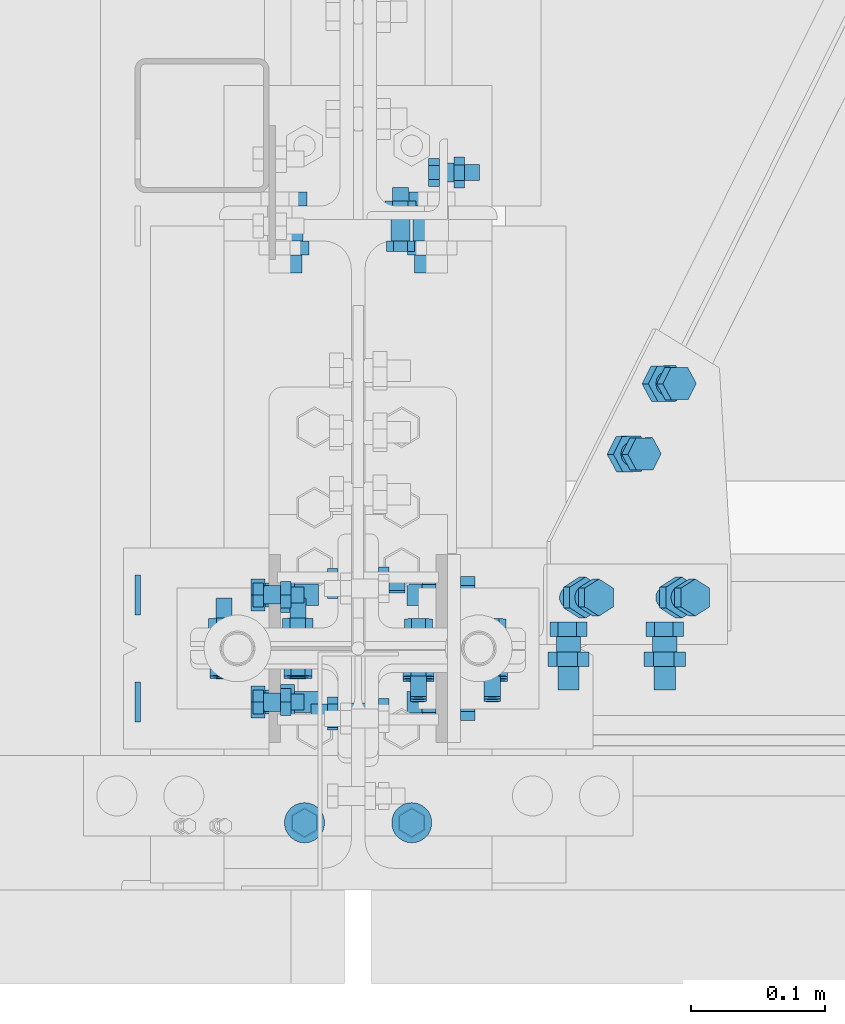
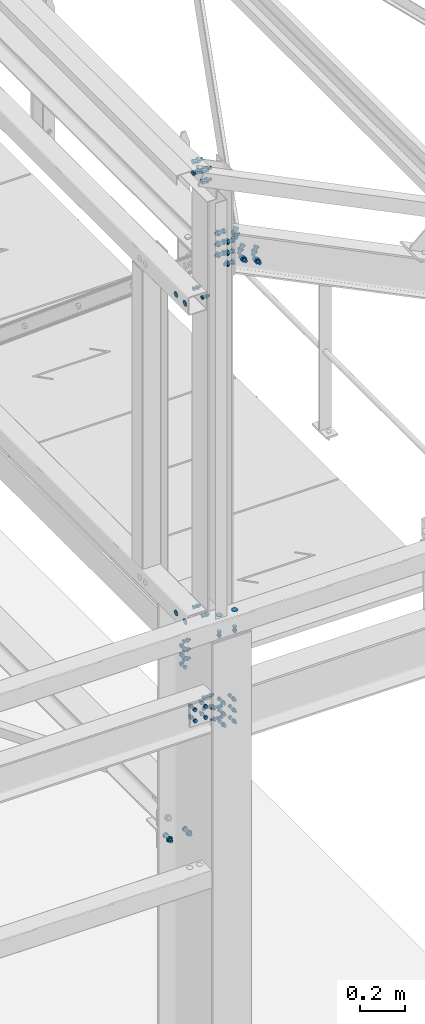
# One storey, part 185 of 362: 18 mechanical fasteners.
"""IFC2X3 building model written with IfcOpenShell, lengths in millimetres."""

from ifc_helpers import new_model, si_unit, frame, origin_with_axes, origin_2d_with_axis, place, context, subcontext, project, spatial, polyline, circle, outline, extrude, source, transform, mapped, material, type_object, element, save


model = new_model("IFC2X3")

# Units and contexts
model_context = context("Model", 3, precision=1e-05, world=origin_with_axes())
body_context = subcontext(model_context, "Body", "Model", "MODEL_VIEW")
ifc_project = project(units=[si_unit("LENGTHUNIT", "METRE", prefix="MILLI"), si_unit("AREAUNIT", "SQUARE_METRE"), si_unit("VOLUMEUNIT", "CUBIC_METRE"), si_unit("MASSUNIT", "GRAM", prefix="KILO"), si_unit("TIMEUNIT", "SECOND"), si_unit("PLANEANGLEUNIT", "RADIAN"), si_unit("SOLIDANGLEUNIT", "STERADIAN"), si_unit("THERMODYNAMICTEMPERATUREUNIT", "DEGREE_CELSIUS"), si_unit("LUMINOUSINTENSITYUNIT", "LUMEN")], contexts=[model_context])

# Site, building, storey
site_placement = place(None, origin_with_axes())
site = spatial("IfcSite", under=ifc_project, at=site_placement, Name="Undefined", CompositionType="ELEMENT")
building_placement = place(site_placement, origin_with_axes())
building = spatial("IfcBuilding", under=site, at=building_placement, Name="Undefined", CompositionType="ELEMENT")
storey_placement = place(building_placement, origin_with_axes())
storey = spatial("IfcBuildingStorey", under=building, at=storey_placement, Name="Undefined", CompositionType="ELEMENT", Elevation=0.0)

# Mechanical fasteners
ifc_material_1 = material(Name="6.8")
mechanical_fastener_type = type_object("IfcMechanicalFastenerType", Name="Bolt assembly")
shared_shape_1 = source(origin_with_axes(), body_context, "Body", "SweptSolid", [
    extrude(circle(Radius=15.0, at=origin_2d_with_axis()), frame((0.0, 0.0, 0.0), z_axis=(0.0, 1.0, 0.0), x_axis=(1.0, 0.0, 0.0)), (0.0, 0.0, 1.0), 4.1),
])
mechanical_fastener_1_placement = place(storey_placement, frame((34279.9971504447, -130.000007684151, 8550.0), z_axis=(-1.0, 0.0, 0.0), x_axis=(0.0, 1.0, 0.0)))
element("IfcMechanicalFastener", 1, at=mechanical_fastener_1_placement, inside=storey, type_object=mechanical_fastener_type, material=ifc_material_1, Name="Bolt assembly", NominalDiameter=30.0, NominalLength=4.0, context=body_context, shape_type="MappedRepresentation", body=[
    mapped(shared_shape_1, transform((0.0, 0.0, -40.0))),
    mapped(shared_shape_1, transform((0.0, 0.0, 40.0))),
])
mechanical_fastener_2_placement = place(storey_placement, frame((34113.4999999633, 2.27373675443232e-13, 10245.0), z_axis=(0.0, 1.0, 0.0), x_axis=(0.0, 0.0, 1.0)))
element("IfcMechanicalFastener", 2, at=mechanical_fastener_2_placement, inside=storey, type_object=mechanical_fastener_type, material=ifc_material_1, Name="Bolt assembly", NominalDiameter=30.0, NominalLength=4.0, context=body_context, shape_type="MappedRepresentation", body=[
    mapped(shared_shape_1, transform((0.0, 0.0, 40.0))),
    mapped(shared_shape_1, transform((0.0, 0.0, -40.0))),
])
ifc_material_2 = material(Name="#_SB-8.8-ZINGUE")
shared_shape_2 = source(origin_with_axes(), body_context, "Body", "SweptSolid", [
    extrude(circle(Radius=9.0, at=origin_2d_with_axis()), frame((0.0, 0.1, 0.0), z_axis=(0.0, 1.0, 0.0), x_axis=(1.0, 0.0, 0.0)), (0.0, 0.0, 1.0), 6.0),
    extrude(circle(Radius=9.0, at=origin_2d_with_axis()), frame((0.0, 5.90002706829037, 0.0), z_axis=(0.0, 1.0, 0.0), x_axis=(1.0, 0.0, 0.0)), (0.0, 0.0, 1.0), 6.1),
    extrude(outline(polyline([(13.85640646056, 0.0), (6.92820323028, 12.0000000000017), (-6.92820323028, 12.0000000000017), (-13.85640646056, 0.0), (-6.92820323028, -12.0000000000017), (6.92820323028, -12.0000000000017), (13.85640646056, 0.0)])), frame((0.0, -10.5600019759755, 0.0), z_axis=(0.0, 1.0, 0.0), x_axis=(1.0, 0.0, 0.0)), (0.0, 0.0, 1.0), 10.56),
    extrude(circle(Radius=8.0, at=origin_2d_with_axis()), frame((0.0, 0.0, 0.0), z_axis=(0.0, 1.0, 0.0), x_axis=(1.0, 0.0, 0.0)), (0.0, 0.0, 1.0), 40.0),
    extrude(outline(polyline([(15.3344231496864, 0.0), (7.6672115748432, 13.2800000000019), (-7.6672115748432, 13.2800000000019), (-15.3344231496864, 0.0), (-7.6672115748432, -13.2800000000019), (7.6672115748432, -13.2800000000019), (15.3344231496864, 0.0)])), frame((0.0, 12.0000270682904, 0.0), z_axis=(0.0, 1.0, 0.0), x_axis=(1.0, 0.0, 0.0)), (0.0, 0.0, 1.0), 10.56),
])
mechanical_fastener_3_placement = place(storey_placement, frame((34490.8929722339, 38.0002246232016, 10375.2945229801), z_axis=(0.897398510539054, 0.0, -0.44122093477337), x_axis=(0.0, -1.0, 0.0)))
element("IfcMechanicalFastener", 3, at=mechanical_fastener_3_placement, inside=storey, type_object=mechanical_fastener_type, material=ifc_material_2, Name="Bolt assembly", NominalDiameter=16.0, NominalLength=40.0, context=body_context, shape_type="MappedRepresentation", body=[
    mapped(shared_shape_2, transform((0.0, 0.0, -40.0))),
    mapped(shared_shape_2, transform((0.0, 0.0, 40.0))),
])
ifc_material_3 = material(Name="8.8-SB-ZINGUE")
shared_shape_3 = source(origin_with_axes(), body_context, "Body", "SweptSolid", [
    extrude(circle(Radius=7.0, at=origin_2d_with_axis()), frame((0.0, -0.100011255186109, 0.0), z_axis=(0.0, 1.0, 0.0), x_axis=(1.0, 0.0, 0.0)), (0.0, 0.0, 1.0), 5.1),
    extrude(circle(Radius=7.0, at=origin_2d_with_axis()), frame((0.0, -5.8999542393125, 0.0), z_axis=(0.0, 1.0, 0.0), x_axis=(1.0, 0.0, 0.0)), (0.0, 0.0, 1.0), 6.0),
    extrude(outline(polyline([(10.39230484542, 0.0), (5.19615242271, 9.00000000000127), (-5.19615242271, 9.00000000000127), (-10.39230484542, 0.0), (-5.19615242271, -9.00000000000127), (5.19615242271, -9.00000000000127), (10.39230484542, 0.0)])), frame((0.0, -13.9199542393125, 0.0), z_axis=(0.0, 1.0, 0.0), x_axis=(1.0, 0.0, 0.0)), (0.0, 0.0, 1.0), 7.92),
    extrude(circle(Radius=6.0, at=origin_2d_with_axis()), frame((0.0, -5.9999542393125, 0.0), z_axis=(0.0, 1.0, 0.0), x_axis=(1.0, 0.0, 0.0)), (0.0, 0.0, 1.0), 30.0),
    extrude(outline(polyline([(11.5008173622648, 0.0), (5.7504086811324, 9.96000000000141), (-5.7504086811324, 9.96000000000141), (-11.5008173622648, 0.0), (-5.7504086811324, -9.96000000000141), (5.7504086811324, -9.96000000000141), (11.5008173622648, 0.0)])), frame((0.0, 5.0, 0.0), z_axis=(0.0, 1.0, 0.0), x_axis=(1.0, 0.0, 0.0)), (0.0, 0.0, 1.0), 7.92),
])
mechanical_fastener_4_placement = place(storey_placement, frame((34346.5000547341, 354.999999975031, 8025.00000000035), z_axis=(0.0, 0.0, 1.0), x_axis=(0.0, -1.0, 0.0)))
element("IfcMechanicalFastener", 4, at=mechanical_fastener_4_placement, inside=storey, type_object=mechanical_fastener_type, material=ifc_material_3, Name="Bolt assembly", NominalDiameter=12.0, NominalLength=30.0, context=body_context, shape_type="MappedRepresentation", body=[
    mapped(shared_shape_3, transform((0.0, 0.0, -50.0))),
    mapped(shared_shape_3, transform((0.0, 0.0, 0.0))),
    mapped(shared_shape_3, transform((0.0, 0.0, 50.0))),
])
shared_shape_4 = source(origin_with_axes(), body_context, "Body", "SweptSolid", [
    extrude(circle(Radius=7.0, at=origin_2d_with_axis()), frame((0.0, -15.9000004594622, 0.0), z_axis=(0.0, 1.0, 0.0), x_axis=(1.0, 0.0, 0.0)), (0.0, 0.0, 1.0), 16.0),
    extrude(circle(Radius=7.0, at=origin_2d_with_axis()), frame((0.0, -0.100011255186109, 0.0), z_axis=(0.0, 1.0, 0.0), x_axis=(1.0, 0.0, 0.0)), (0.0, 0.0, 1.0), 6.1),
    extrude(outline(polyline([(10.39230484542, 0.0), (5.19615242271, 9.00000000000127), (-5.19615242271, 9.00000000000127), (-10.39230484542, 0.0), (-5.19615242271, -9.00000000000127), (5.19615242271, -9.00000000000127), (10.39230484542, 0.0)])), frame((0.0, -23.9200004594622, 0.0), z_axis=(0.0, 1.0, 0.0), x_axis=(1.0, 0.0, 0.0)), (0.0, 0.0, 1.0), 7.92),
    extrude(circle(Radius=6.0, at=origin_2d_with_axis()), frame((0.0, -16.0000004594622, 0.0), z_axis=(0.0, 1.0, 0.0), x_axis=(1.0, 0.0, 0.0)), (0.0, 0.0, 1.0), 40.0),
    extrude(outline(polyline([(11.5008173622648, 0.0), (5.7504086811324, 9.96000000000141), (-5.7504086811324, 9.96000000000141), (-11.5008173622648, 0.0), (-5.7504086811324, -9.96000000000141), (5.7504086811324, -9.96000000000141), (11.5008173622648, 0.0)])), frame((0.0, 6.0, 0.0), z_axis=(0.0, 1.0, 0.0), x_axis=(1.0, 0.0, 0.0)), (0.0, 0.0, 1.0), 7.92),
])
mechanical_fastener_5_placement = place(storey_placement, frame((34311.5000548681, 319.999999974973, 8025.00000000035), z_axis=(0.0, 0.0, 1.0), x_axis=(1.0, 0.0, 0.0)))
element("IfcMechanicalFastener", 5, at=mechanical_fastener_5_placement, inside=storey, type_object=mechanical_fastener_type, material=ifc_material_3, Name="Bolt assembly", NominalDiameter=12.0, NominalLength=40.0, context=body_context, shape_type="MappedRepresentation", body=[
    mapped(shared_shape_4, transform((0.0, 0.0, -50.0))),
    mapped(shared_shape_4, transform((0.0, 0.0, 0.0))),
    mapped(shared_shape_4, transform((0.0, 0.0, 50.0))),
])
shared_shape_5 = source(origin_with_axes(), body_context, "Body", "SweptSolid", [
    extrude(circle(Radius=7.0, at=origin_2d_with_axis()), frame((0.0, -3.89999843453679, 0.0), z_axis=(0.0, 1.0, 0.0), x_axis=(1.0, 0.0, 0.0)), (0.0, 0.0, 1.0), 4.0),
    extrude(circle(Radius=7.0, at=origin_2d_with_axis()), frame((0.0, -0.100011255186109, 0.0), z_axis=(0.0, 1.0, 0.0), x_axis=(1.0, 0.0, 0.0)), (0.0, 0.0, 1.0), 10.1),
    extrude(outline(polyline([(10.39230484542, 0.0), (5.19615242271, 9.00000000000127), (-5.19615242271, 9.00000000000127), (-10.39230484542, 0.0), (-5.19615242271, -9.00000000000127), (5.19615242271, -9.00000000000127), (10.39230484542, 0.0)])), frame((0.0, -11.9199984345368, 0.0), z_axis=(0.0, 1.0, 0.0), x_axis=(1.0, 0.0, 0.0)), (0.0, 0.0, 1.0), 7.92),
    extrude(circle(Radius=6.0, at=origin_2d_with_axis()), frame((0.0, -3.99999923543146, 0.0), z_axis=(0.0, 1.0, 0.0), x_axis=(1.0, 0.0, 0.0)), (0.0, 0.0, 1.0), 30.0),
    extrude(outline(polyline([(11.5008173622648, 0.0), (5.7504086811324, 9.96000000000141), (-5.7504086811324, 9.96000000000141), (-11.5008173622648, 0.0), (-5.7504086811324, -9.96000000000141), (5.7504086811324, -9.96000000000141), (11.5008173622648, 0.0)])), frame((0.0, 10.0000000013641, 0.0), z_axis=(0.0, 1.0, 0.0), x_axis=(1.0, 0.0, 0.0)), (0.0, 0.0, 1.0), 7.92),
])
mechanical_fastener_6_placement = place(storey_placement, frame((34279.9971504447, -130.0, 8450.0), z_axis=(-1.0, 0.0, 0.0), x_axis=(0.0, 1.0, 0.0)))
element("IfcMechanicalFastener", 6, at=mechanical_fastener_6_placement, inside=storey, type_object=mechanical_fastener_type, material=ifc_material_3, Name="Bolt assembly", NominalDiameter=12.0, NominalLength=30.0, context=body_context, shape_type="MappedRepresentation", body=[
    mapped(shared_shape_5, transform((0.0, 0.0, -40.0))),
    mapped(shared_shape_5, transform((0.0, 0.0, 40.0))),
])
shared_shape_6 = source(origin_with_axes(), body_context, "Body", "SweptSolid", [
    extrude(circle(Radius=9.0, at=origin_2d_with_axis()), frame((0.0, -4.89994333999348, 0.0), z_axis=(0.0, 1.0, 0.0), x_axis=(1.0, 0.0, 0.0)), (0.0, 0.0, 1.0), 5.0),
    extrude(circle(Radius=9.0, at=origin_2d_with_axis()), frame((0.0, -0.100011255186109, 0.0), z_axis=(0.0, 1.0, 0.0), x_axis=(1.0, 0.0, 0.0)), (0.0, 0.0, 1.0), 6.1),
    extrude(outline(polyline([(13.85640646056, 0.0), (6.92820323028, 12.0000000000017), (-6.92820323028, 12.0000000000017), (-13.85640646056, 0.0), (-6.92820323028, -12.0000000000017), (6.92820323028, -12.0000000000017), (13.85640646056, 0.0)])), frame((0.0, -15.5599419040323, 0.0), z_axis=(0.0, 1.0, 0.0), x_axis=(1.0, 0.0, 0.0)), (0.0, 0.0, 1.0), 10.56),
    extrude(circle(Radius=8.0, at=origin_2d_with_axis()), frame((0.0, -4.99994333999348, 0.0), z_axis=(0.0, 1.0, 0.0), x_axis=(1.0, 0.0, 0.0)), (0.0, 0.0, 1.0), 30.0),
    extrude(outline(polyline([(15.3344231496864, 0.0), (7.6672115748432, 13.2800000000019), (-7.6672115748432, 13.2800000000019), (-15.3344231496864, 0.0), (-7.6672115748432, -13.2800000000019), (7.6672115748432, -13.2800000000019), (15.3344231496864, 0.0)])), frame((0.0, 6.0, 0.0), z_axis=(0.0, 1.0, 0.0), x_axis=(1.0, 0.0, 0.0)), (0.0, 0.0, 1.0), 10.56),
])
mechanical_fastener_7_placement = place(storey_placement, frame((34486.7876729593, 145.089536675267, 10377.3129587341), z_axis=(-0.78486955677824, 0.484835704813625, 0.385893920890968), x_axis=(0.435090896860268, 0.874605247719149, -0.213919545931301)))
element("IfcMechanicalFastener", 7, at=mechanical_fastener_7_placement, inside=storey, type_object=mechanical_fastener_type, material=ifc_material_2, Name="Bolt assembly", NominalDiameter=16.0, NominalLength=30.0, context=body_context, shape_type="MappedRepresentation", body=[
    mapped(shared_shape_6, transform((0.0, 0.0, 0.0))),
    mapped(shared_shape_6, transform((60.0, 0.0, 0.0))),
])
shared_shape_7 = source(origin_with_axes(), body_context, "Body", "SweptSolid", [
    extrude(circle(Radius=9.0, at=origin_2d_with_axis()), frame((0.0, -2.89967612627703, 0.0), z_axis=(0.0, 1.0, 0.0), x_axis=(1.0, 0.0, 0.0)), (0.0, 0.0, 1.0), 5.7),
    extrude(circle(Radius=9.0, at=origin_2d_with_axis()), frame((0.0, -8.89990143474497, 0.0), z_axis=(0.0, 1.0, 0.0), x_axis=(1.0, 0.0, 0.0)), (0.0, 0.0, 1.0), 6.0),
    extrude(outline(polyline([(13.85640646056, 0.0), (6.92820323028, 12.0000000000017), (-6.92820323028, 12.0000000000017), (-13.85640646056, 0.0), (-6.92820323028, -12.0000000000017), (6.92820323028, -12.0000000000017), (13.85640646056, 0.0)])), frame((0.0, -19.559901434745, 0.0), z_axis=(0.0, 1.0, 0.0), x_axis=(1.0, 0.0, 0.0)), (0.0, 0.0, 1.0), 10.56),
    extrude(circle(Radius=8.0, at=origin_2d_with_axis()), frame((0.0, -8.99990143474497, 0.0), z_axis=(0.0, 1.0, 0.0), x_axis=(1.0, 0.0, 0.0)), (0.0, 0.0, 1.0), 40.0),
    extrude(outline(polyline([(15.3344231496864, 0.0), (7.6672115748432, 13.2800000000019), (-7.6672115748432, 13.2800000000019), (-15.3344231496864, 0.0), (-7.6672115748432, -13.2800000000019), (7.6672115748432, -13.2800000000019), (15.3344231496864, 0.0)])), frame((0.0, 2.80032377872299, 0.0), z_axis=(0.0, 1.0, 0.0), x_axis=(1.0, 0.0, 0.0)), (0.0, 0.0, 1.0), 10.56),
])
mechanical_fastener_8_placement = place(storey_placement, frame((34472.8028958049, 0.000323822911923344, 10338.5011560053), z_axis=(0.897398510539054, 0.0, -0.44122093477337), x_axis=(0.44122107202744, 0.0, 0.89739844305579)))
element("IfcMechanicalFastener", 8, at=mechanical_fastener_8_placement, inside=storey, type_object=mechanical_fastener_type, material=ifc_material_2, Name="Bolt assembly", NominalDiameter=16.0, NominalLength=40.0, context=body_context, shape_type="MappedRepresentation", body=[
    mapped(shared_shape_7, transform((0.0, 0.0, -40.0))),
    mapped(shared_shape_7, transform((0.0, 0.0, 40.0))),
])
shared_shape_8 = source(origin_with_axes(), body_context, "Body", "SweptSolid", [
    extrude(circle(Radius=9.0, at=origin_2d_with_axis()), frame((0.0, -0.091713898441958, 0.0), z_axis=(0.0, 1.0, 0.0), x_axis=(1.0, 0.0, 0.0)), (0.0, 0.0, 1.0), 8.6),
    extrude(circle(Radius=9.0, at=origin_2d_with_axis()), frame((0.0, -9.89171439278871, 0.0), z_axis=(0.0, 1.0, 0.0), x_axis=(1.0, 0.0, 0.0)), (0.0, 0.0, 1.0), 10.0),
    extrude(outline(polyline([(13.85640646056, 0.0), (6.92820323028, 12.0000000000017), (-6.92820323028, 12.0000000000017), (-13.85640646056, 0.0), (-6.92820323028, -12.0000000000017), (6.92820323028, -12.0000000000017), (13.85640646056, 0.0)])), frame((0.0, -20.5517143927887, 0.0), z_axis=(0.0, 1.0, 0.0), x_axis=(1.0, 0.0, 0.0)), (0.0, 0.0, 1.0), 10.56),
    extrude(circle(Radius=8.0, at=origin_2d_with_axis()), frame((0.0, -9.99171439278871, 0.0), z_axis=(0.0, 1.0, 0.0), x_axis=(1.0, 0.0, 0.0)), (0.0, 0.0, 1.0), 40.0),
    extrude(outline(polyline([(15.3344231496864, 0.0), (7.6672115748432, 13.2800000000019), (-7.6672115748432, 13.2800000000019), (-15.3344231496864, 0.0), (-7.6672115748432, -13.2800000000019), (7.6672115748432, -13.2800000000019), (15.3344231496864, 0.0)])), frame((0.0, 8.50828610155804, 0.0), z_axis=(0.0, 1.0, 0.0), x_axis=(1.0, 0.0, 0.0)), (0.0, 0.0, 1.0), 10.56),
])
mechanical_fastener_9_placement = place(storey_placement, frame((34346.5082856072, -40.0, 10446.3709529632), z_axis=(0.0, 0.0, 1.0), x_axis=(0.0, 1.0, 0.0)))
element("IfcMechanicalFastener", 9, at=mechanical_fastener_9_placement, inside=storey, type_object=mechanical_fastener_type, material=ifc_material_3, Name="Bolt assembly", NominalDiameter=16.0, NominalLength=40.0, context=body_context, shape_type="MappedRepresentation", body=[
    mapped(shared_shape_8, transform((0.0, 0.0, -60.0))),
    mapped(shared_shape_8, transform((80.0, 0.0, -60.0))),
    mapped(shared_shape_8, transform((0.0, 0.0, 0.0))),
    mapped(shared_shape_8, transform((80.0, 0.0, 0.0))),
    mapped(shared_shape_8, transform((0.0, 0.0, 60.0))),
    mapped(shared_shape_8, transform((80.0, 0.0, 60.0))),
])
shared_shape_9 = source(origin_with_axes(), body_context, "Body", "SweptSolid", [
    extrude(circle(Radius=15.0, at=origin_2d_with_axis()), frame((0.0, -0.000130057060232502, 0.0), z_axis=(0.0, 1.0, 0.0), x_axis=(1.0, 0.0, 0.0)), (0.0, 0.0, 1.0), 4.1),
])
mechanical_fastener_10_placement = place(storey_placement, frame((34113.5001162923, 0.0, 8500.0), z_axis=(0.0, -1.0, 0.0), x_axis=(0.0, 0.0, -1.0)))
element("IfcMechanicalFastener", 10, at=mechanical_fastener_10_placement, inside=storey, type_object=mechanical_fastener_type, material=ifc_material_1, Name="Bolt assembly", NominalDiameter=30.0, NominalLength=4.0, context=body_context, shape_type="MappedRepresentation", body=[
    mapped(shared_shape_9, transform((0.0, 0.0, -40.0))),
    mapped(shared_shape_9, transform((0.0, 0.0, 40.0))),
])
shared_shape_10 = source(origin_with_axes(), body_context, "Body", "SweptSolid", [
    extrude(circle(Radius=7.0, at=origin_2d_with_axis()), frame((0.0, -3.90012822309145, 0.0), z_axis=(0.0, 1.0, 0.0), x_axis=(1.0, 0.0, 0.0)), (0.0, 0.0, 1.0), 4.0),
    extrude(circle(Radius=7.0, at=origin_2d_with_axis()), frame((0.0, -0.10007666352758, 0.0), z_axis=(0.0, 1.0, 0.0), x_axis=(1.0, 0.0, 0.0)), (0.0, 0.0, 1.0), 8.6),
    extrude(outline(polyline([(10.39230484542, 0.0), (5.19615242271, 9.00000000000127), (-5.19615242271, 9.00000000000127), (-10.39230484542, 0.0), (-5.19615242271, -9.00000000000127), (5.19615242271, -9.00000000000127), (10.39230484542, 0.0)])), frame((0.0, -11.9201282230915, 0.0), z_axis=(0.0, 1.0, 0.0), x_axis=(1.0, 0.0, 0.0)), (0.0, 0.0, 1.0), 7.92),
    extrude(circle(Radius=6.0, at=origin_2d_with_axis()), frame((0.0, -4.00012822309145, 0.0), z_axis=(0.0, 1.0, 0.0), x_axis=(1.0, 0.0, 0.0)), (0.0, 0.0, 1.0), 30.0),
    extrude(outline(polyline([(11.5008173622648, 0.0), (5.7504086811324, 9.96000000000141), (-5.7504086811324, 9.96000000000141), (-11.5008173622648, 0.0), (-5.7504086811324, -9.96000000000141), (5.7504086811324, -9.96000000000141), (11.5008173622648, 0.0)])), frame((0.0, 8.49988372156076, 0.0), z_axis=(0.0, 1.0, 0.0), x_axis=(1.0, 0.0, 0.0)), (0.0, 0.0, 1.0), 7.92),
])
mechanical_fastener_11_placement = place(storey_placement, frame((34213.5001162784, 0.0, 8500.00000188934), z_axis=(0.0, -1.0, 0.0), x_axis=(0.0, 0.0, -1.0)))
element("IfcMechanicalFastener", 11, at=mechanical_fastener_11_placement, inside=storey, type_object=mechanical_fastener_type, material=ifc_material_3, Name="Bolt assembly", NominalDiameter=12.0, NominalLength=30.0, context=body_context, shape_type="MappedRepresentation", body=[
    mapped(shared_shape_10, transform((0.0, 0.0, -40.0))),
    mapped(shared_shape_10, transform((0.0, 0.0, 40.0))),
])
shared_shape_11 = source(origin_with_axes(), body_context, "Body", "SweptSolid", [
    extrude(circle(Radius=7.0, at=origin_2d_with_axis()), frame((0.0, -3.89999843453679, 0.0), z_axis=(0.0, 1.0, 0.0), x_axis=(1.0, 0.0, 0.0)), (0.0, 0.0, 1.0), 4.0),
    extrude(circle(Radius=7.0, at=origin_2d_with_axis()), frame((0.0, -0.100011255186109, 0.0), z_axis=(0.0, 1.0, 0.0), x_axis=(1.0, 0.0, 0.0)), (0.0, 0.0, 1.0), 8.6),
    extrude(outline(polyline([(10.39230484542, 0.0), (5.19615242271, 9.00000000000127), (-5.19615242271, 9.00000000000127), (-10.39230484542, 0.0), (-5.19615242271, -9.00000000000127), (5.19615242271, -9.00000000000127), (10.39230484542, 0.0)])), frame((0.0, -11.9199984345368, 0.0), z_axis=(0.0, 1.0, 0.0), x_axis=(1.0, 0.0, 0.0)), (0.0, 0.0, 1.0), 7.92),
    extrude(circle(Radius=6.0, at=origin_2d_with_axis()), frame((0.0, -3.99999923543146, 0.0), z_axis=(0.0, 1.0, 0.0), x_axis=(1.0, 0.0, 0.0)), (0.0, 0.0, 1.0), 30.0),
    extrude(outline(polyline([(11.5008173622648, 0.0), (5.7504086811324, 9.96000000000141), (-5.7504086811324, 9.96000000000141), (-11.5008173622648, 0.0), (-5.7504086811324, -9.96000000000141), (5.7504086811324, -9.96000000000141), (11.5008173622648, 0.0)])), frame((0.0, 8.49999994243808, 0.0), z_axis=(0.0, 1.0, 0.0), x_axis=(1.0, 0.0, 0.0)), (0.0, 0.0, 1.0), 7.92),
])
mechanical_fastener_12_placement = place(storey_placement, frame((34213.4999999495, 0.0, 10244.9999981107), z_axis=(0.0, 1.0, 0.0), x_axis=(0.0, 0.0, 1.0)))
element("IfcMechanicalFastener", 12, at=mechanical_fastener_12_placement, inside=storey, type_object=mechanical_fastener_type, material=ifc_material_3, Name="Bolt assembly", NominalDiameter=12.0, NominalLength=30.0, context=body_context, shape_type="MappedRepresentation", body=[
    mapped(shared_shape_11, transform((0.0, 0.0, -40.0))),
    mapped(shared_shape_11, transform((0.0, 0.0, 40.0))),
])
shared_shape_12 = source(origin_with_axes(), body_context, "Body", "SweptSolid", [
    extrude(circle(Radius=9.0, at=origin_2d_with_axis()), frame((0.0, -0.100011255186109, 0.0), z_axis=(0.0, 1.0, 0.0), x_axis=(1.0, 0.0, 0.0)), (0.0, 0.0, 1.0), 8.6),
    extrude(circle(Radius=9.0, at=origin_2d_with_axis()), frame((0.0, -2.9, 0.0), z_axis=(0.0, 1.0, 0.0), x_axis=(1.0, 0.0, 0.0)), (0.0, 0.0, 1.0), 3.0),
    extrude(outline(polyline([(13.85640646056, 0.0), (6.92820323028, 12.0000000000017), (-6.92820323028, 12.0000000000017), (-13.85640646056, 0.0), (-6.92820323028, -12.0000000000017), (6.92820323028, -12.0000000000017), (13.85640646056, 0.0)])), frame((0.0, -13.56, 0.0), z_axis=(0.0, 1.0, 0.0), x_axis=(1.0, 0.0, 0.0)), (0.0, 0.0, 1.0), 10.56),
    extrude(circle(Radius=8.0, at=origin_2d_with_axis()), frame((0.0, -2.99999932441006, 0.0), z_axis=(0.0, 1.0, 0.0), x_axis=(1.0, 0.0, 0.0)), (0.0, 0.0, 1.0), 40.0),
    extrude(outline(polyline([(15.3344231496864, 0.0), (7.6672115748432, 13.2800000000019), (-7.6672115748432, 13.2800000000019), (-15.3344231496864, 0.0), (-7.6672115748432, -13.2800000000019), (7.6672115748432, -13.2800000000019), (15.3344231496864, 0.0)])), frame((0.0, 8.49999994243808, 0.0), z_axis=(0.0, 1.0, 0.0), x_axis=(1.0, 0.0, 0.0)), (0.0, 0.0, 1.0), 10.56),
])
mechanical_fastener_13_placement = place(storey_placement, frame((34213.49999895, 0.0, 10880.8421014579), z_axis=(0.0, 1.0, 0.0), x_axis=(0.0, 0.0, 1.0)))
element("IfcMechanicalFastener", 13, at=mechanical_fastener_13_placement, inside=storey, type_object=mechanical_fastener_type, material=ifc_material_3, Name="Bolt assembly", NominalDiameter=16.0, NominalLength=40.0, context=body_context, shape_type="MappedRepresentation", body=[
    mapped(shared_shape_12, transform((0.0, 0.0, -40.0))),
    mapped(shared_shape_12, transform((60.0, 0.0, -40.0))),
    mapped(shared_shape_12, transform((0.0, 0.0, 40.0))),
    mapped(shared_shape_12, transform((60.0, 0.0, 40.0))),
])
shared_shape_13 = source(origin_with_axes(), body_context, "Body", "SweptSolid", [
    extrude(circle(Radius=7.0, at=origin_2d_with_axis()), frame((0.0, -5.09982549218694, 0.0), z_axis=(0.0, 1.0, 0.0), x_axis=(1.0, 0.0, 0.0)), (0.0, 0.0, 1.0), 10.2),
    extrude(circle(Radius=7.0, at=origin_2d_with_axis()), frame((0.0, -14.8994948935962, 0.0), z_axis=(0.0, 1.0, 0.0), x_axis=(1.0, 0.0, 0.0)), (0.0, 0.0, 1.0), 10.0),
    extrude(circle(Radius=7.0, at=origin_2d_with_axis()), frame((0.0, 4.90214423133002, 0.0), z_axis=(0.0, 1.0, 0.0), x_axis=(1.0, 0.0, 0.0)), (0.0, 0.0, 1.0), 10.1),
    extrude(outline(polyline([(10.39230484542, 0.0), (5.19615242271, 9.00000000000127), (-5.19615242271, 9.00000000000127), (-10.39230484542, 0.0), (-5.19615242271, -9.00000000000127), (5.19615242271, -9.00000000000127), (10.39230484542, 0.0)])), frame((0.0, -22.9194948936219, 0.0), z_axis=(0.0, 1.0, 0.0), x_axis=(1.0, 0.0, 0.0)), (0.0, 0.0, 1.0), 7.92),
    extrude(circle(Radius=6.0, at=origin_2d_with_axis()), frame((0.0, -14.9994948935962, 0.0), z_axis=(0.0, 1.0, 0.0), x_axis=(1.0, 0.0, 0.0)), (0.0, 0.0, 1.0), 50.0),
    extrude(outline(polyline([(11.5008173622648, 0.0), (5.7504086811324, 9.96000000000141), (-5.7504086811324, 9.96000000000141), (-11.5008173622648, 0.0), (-5.7504086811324, -9.96000000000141), (5.7504086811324, -9.96000000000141), (11.5008173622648, 0.0)])), frame((0.0, 15.00214423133, 0.0), z_axis=(0.0, 1.0, 0.0), x_axis=(1.0, 0.0, 0.0)), (0.0, 0.0, 1.0), 7.92),
])
mechanical_fastener_14_placement = place(storey_placement, frame((34280.0, -48.4783482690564, 7951.4775733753), z_axis=(7.58071938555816e-11, 0.0314107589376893, 0.999506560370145), x_axis=(3.14103090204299e-11, 0.999506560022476, -0.0314107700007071)))
element("IfcMechanicalFastener", 14, at=mechanical_fastener_14_placement, inside=storey, type_object=mechanical_fastener_type, material=ifc_material_3, Name="Bolt assembly", NominalDiameter=12.0, NominalLength=50.0, context=body_context, shape_type="MappedRepresentation", body=[
    mapped(shared_shape_13, transform((0.0, 0.0, -30.0))),
    mapped(shared_shape_13, transform((0.0, 0.0, 30.0))),
])
shared_shape_14 = source(origin_with_axes(), body_context, "Body", "SweptSolid", [
    extrude(circle(Radius=7.0, at=origin_2d_with_axis()), frame((0.0, -5.10017532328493, 0.0), z_axis=(0.0, 1.0, 0.0), x_axis=(1.0, 0.0, 0.0)), (0.0, 0.0, 1.0), 10.2),
    extrude(circle(Radius=7.0, at=origin_2d_with_axis()), frame((0.0, 4.89949489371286, 0.0), z_axis=(0.0, 1.0, 0.0), x_axis=(1.0, 0.0, 0.0)), (0.0, 0.0, 1.0), 10.1),
    extrude(circle(Radius=7.0, at=origin_2d_with_axis()), frame((0.0, -14.9021442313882, 0.0), z_axis=(0.0, 1.0, 0.0), x_axis=(1.0, 0.0, 0.0)), (0.0, 0.0, 1.0), 10.0),
    extrude(outline(polyline([(10.39230484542, 0.0), (5.19615242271, 9.00000000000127), (-5.19615242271, 9.00000000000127), (-10.39230484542, 0.0), (-5.19615242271, -9.00000000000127), (5.19615242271, -9.00000000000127), (10.39230484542, 0.0)])), frame((0.0, -22.9221442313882, 0.0), z_axis=(0.0, 1.0, 0.0), x_axis=(1.0, 0.0, 0.0)), (0.0, 0.0, 1.0), 7.92),
    extrude(circle(Radius=6.0, at=origin_2d_with_axis()), frame((0.0, -15.0021442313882, 0.0), z_axis=(0.0, 1.0, 0.0), x_axis=(1.0, 0.0, 0.0)), (0.0, 0.0, 1.0), 50.0),
    extrude(outline(polyline([(11.5008173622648, 0.0), (5.7504086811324, 9.96000000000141), (-5.7504086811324, 9.96000000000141), (-11.5008173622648, 0.0), (-5.7504086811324, -9.96000000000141), (5.7504086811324, -9.96000000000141), (11.5008173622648, 0.0)])), frame((0.0, 14.9994948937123, 0.0), z_axis=(0.0, 1.0, 0.0), x_axis=(1.0, 0.0, 0.0)), (0.0, 0.0, 1.0), 7.92),
])
mechanical_fastener_15_placement = place(storey_placement, frame((34280.0, 48.4746485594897, 7948.43065832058), z_axis=(7.58071938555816e-11, 0.0314107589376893, 0.999506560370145), x_axis=(0.0, -0.999506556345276, 0.031410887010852)))
element("IfcMechanicalFastener", 15, at=mechanical_fastener_15_placement, inside=storey, type_object=mechanical_fastener_type, material=ifc_material_3, Name="Bolt assembly", NominalDiameter=12.0, NominalLength=50.0, context=body_context, shape_type="MappedRepresentation", body=[
    mapped(shared_shape_14, transform((0.0, 0.0, -30.0))),
    mapped(shared_shape_14, transform((0.0, 0.0, 30.0))),
])
shared_shape_15 = source(origin_with_axes(), body_context, "Body", "SweptSolid", [
    extrude(circle(Radius=7.0, at=origin_2d_with_axis()), frame((0.0, -3.30219699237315, 0.0), z_axis=(0.0, 1.0, 0.0), x_axis=(1.0, 0.0, 0.0)), (0.0, 0.0, 1.0), 6.6),
    extrude(circle(Radius=7.0, at=origin_2d_with_axis()), frame((0.0, 3.40017014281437, 0.0), z_axis=(0.0, 1.0, 0.0), x_axis=(1.0, 0.0, 0.0)), (0.0, 0.0, 1.0), 10.1),
    extrude(circle(Radius=7.0, at=origin_2d_with_axis()), frame((0.0, -13.4007196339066, 0.0), z_axis=(0.0, 1.0, 0.0), x_axis=(1.0, 0.0, 0.0)), (0.0, 0.0, 1.0), 10.0),
    extrude(outline(polyline([(10.39230484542, 0.0), (5.19615242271, 9.00000000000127), (-5.19615242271, 9.00000000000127), (-10.39230484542, 0.0), (-5.19615242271, -9.00000000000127), (5.19615242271, -9.00000000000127), (10.39230484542, 0.0)])), frame((0.0, -21.4206921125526, 0.0), z_axis=(0.0, 1.0, 0.0), x_axis=(1.0, 0.0, 0.0)), (0.0, 0.0, 1.0), 7.92),
    extrude(circle(Radius=6.0, at=origin_2d_with_axis()), frame((0.0, -13.5007196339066, 0.0), z_axis=(0.0, 1.0, 0.0), x_axis=(1.0, 0.0, 0.0)), (0.0, 0.0, 1.0), 50.0),
    extrude(outline(polyline([(11.5008173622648, 0.0), (5.7504086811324, 9.96000000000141), (-5.7504086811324, 9.96000000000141), (-11.5008173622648, 0.0), (-5.7504086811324, -9.96000000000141), (5.7504086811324, -9.96000000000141), (11.5008173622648, 0.0)])), frame((0.0, 13.5001701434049, 0.0), z_axis=(0.0, 1.0, 0.0), x_axis=(1.0, 0.0, 0.0)), (0.0, 0.0, 1.0), 7.92),
])
mechanical_fastener_16_placement = place(storey_placement, frame((34379.9994948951, -1.25855220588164, 7909.97386260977), z_axis=(7.58071938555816e-11, 0.0314107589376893, 0.999506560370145), x_axis=(-0.999999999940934, -1.08559999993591e-05, 5.2799999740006e-07)))
element("IfcMechanicalFastener", 16, at=mechanical_fastener_16_placement, inside=storey, type_object=mechanical_fastener_type, material=ifc_material_3, Name="Bolt assembly", NominalDiameter=12.0, NominalLength=50.0, context=body_context, shape_type="MappedRepresentation", body=[
    mapped(shared_shape_15, transform((0.0, 0.0, -60.0))),
    mapped(shared_shape_15, transform((55.0000000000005, -2.47382558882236e-10, -59.9999999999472))),
    mapped(shared_shape_15, transform((0.0, 0.0, 0.0))),
    mapped(shared_shape_15, transform((55.0000000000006, -1.81898940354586e-10, 0.0))),
    mapped(shared_shape_15, transform((0.0, 0.0, 60.0))),
    mapped(shared_shape_15, transform((55.0000000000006, -1.01863406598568e-10, 59.9999999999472))),
])
shared_shape_16 = source(origin_with_axes(), body_context, "Body", "SweptSolid", [
    extrude(circle(Radius=7.0, at=origin_2d_with_axis()), frame((0.0, -2.79781492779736, 0.0), z_axis=(0.0, 1.0, 0.0), x_axis=(1.0, 0.0, 0.0)), (0.0, 0.0, 1.0), 5.6),
    extrude(circle(Radius=7.0, at=origin_2d_with_axis()), frame((0.0, -13.4001594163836, 0.0), z_axis=(0.0, 1.0, 0.0), x_axis=(1.0, 0.0, 0.0)), (0.0, 0.0, 1.0), 10.0),
    extrude(circle(Radius=7.0, at=origin_2d_with_axis()), frame((0.0, 3.40070287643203, 0.0), z_axis=(0.0, 1.0, 0.0), x_axis=(1.0, 0.0, 0.0)), (0.0, 0.0, 1.0), 10.1),
    extrude(outline(polyline([(10.39230484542, 0.0), (5.19615242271, 9.00000000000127), (-5.19615242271, 9.00000000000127), (-10.39230484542, 0.0), (-5.19615242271, -9.00000000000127), (5.19615242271, -9.00000000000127), (10.39230484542, 0.0)])), frame((0.0, -21.4201594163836, 0.0), z_axis=(0.0, 1.0, 0.0), x_axis=(1.0, 0.0, 0.0)), (0.0, 0.0, 1.0), 7.92),
    extrude(circle(Radius=6.0, at=origin_2d_with_axis()), frame((0.0, -13.5001910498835, 0.0), z_axis=(0.0, 1.0, 0.0), x_axis=(1.0, 0.0, 0.0)), (0.0, 0.0, 1.0), 50.0),
    extrude(outline(polyline([(11.5008173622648, 0.0), (5.7504086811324, 9.96000000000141), (-5.7504086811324, 9.96000000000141), (-11.5008173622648, 0.0), (-5.7504086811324, -9.96000000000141), (5.7504086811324, -9.96000000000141), (11.5008173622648, 0.0)])), frame((0.0, 13.5007028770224, 0.0), z_axis=(0.0, 1.0, 0.0), x_axis=(1.0, 0.0, 0.0)), (0.0, 0.0, 1.0), 7.92),
])
mechanical_fastener_17_placement = place(storey_placement, frame((34179.9978557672, -0.0021212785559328, 7949.95412905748), z_axis=(7.58071938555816e-11, 0.0314107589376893, 0.999506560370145), x_axis=(0.999999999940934, -1.08559999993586e-05, 5.27999997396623e-07)))
element("IfcMechanicalFastener", 17, at=mechanical_fastener_17_placement, inside=storey, type_object=mechanical_fastener_type, material=ifc_material_3, Name="Bolt assembly", NominalDiameter=12.0, NominalLength=50.0, context=body_context, shape_type="MappedRepresentation", body=[
    mapped(shared_shape_16, transform((0.0, 0.0, -30.0))),
    mapped(shared_shape_16, transform((55.0000000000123, 3.45607986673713e-11, -30.0000000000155))),
    mapped(shared_shape_16, transform((0.0, 0.0, 30.0))),
    mapped(shared_shape_16, transform((54.9999999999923, 3.45607986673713e-11, 29.9999999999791))),
])
shared_shape_17 = source(origin_with_axes(), body_context, "Body", "SweptSolid", [
    extrude(circle(Radius=9.0, at=origin_2d_with_axis()), frame((0.0, -0.104724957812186, 0.0), z_axis=(0.0, 1.0, 0.0), x_axis=(1.0, 0.0, 0.0)), (0.0, 0.0, 1.0), 16.1),
    extrude(circle(Radius=9.0, at=origin_2d_with_axis()), frame((0.0, -9.90351884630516, 0.0), z_axis=(0.0, 1.0, 0.0), x_axis=(1.0, 0.0, 0.0)), (0.0, 0.0, 1.0), 10.0),
    extrude(outline(polyline([(13.85640646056, 0.0), (6.92820323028, 12.0000000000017), (-6.92820323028, 12.0000000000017), (-13.85640646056, 0.0), (-6.92820323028, -12.0000000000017), (6.92820323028, -12.0000000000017), (13.85640646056, 0.0)])), frame((0.0, -20.5635188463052, 0.0), z_axis=(0.0, 1.0, 0.0), x_axis=(1.0, 0.0, 0.0)), (0.0, 0.0, 1.0), 10.56),
    extrude(circle(Radius=8.0, at=origin_2d_with_axis()), frame((0.0, -10.0035188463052, 0.0), z_axis=(0.0, 1.0, 0.0), x_axis=(1.0, 0.0, 0.0)), (0.0, 0.0, 1.0), 50.0),
    extrude(outline(polyline([(15.3344231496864, 0.0), (7.6672115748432, 13.2800000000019), (-7.6672115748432, 13.2800000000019), (-15.3344231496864, 0.0), (-7.6672115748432, -13.2800000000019), (7.6672115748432, -13.2800000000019), (15.3344231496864, 0.0)])), frame((0.0, 15.9952750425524, 0.0), z_axis=(0.0, 1.0, 0.0), x_axis=(1.0, 0.0, 0.0)), (0.0, 0.0, 1.0), 10.56),
])
mechanical_fastener_18_placement = place(storey_placement, frame((34280.00000009, 319.995275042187, 7062.00000007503), z_axis=(1.0, 0.0, 0.0), x_axis=(1.99996231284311e-09, 6.74699999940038e-06, 0.999999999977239)))
element("IfcMechanicalFastener", 18, at=mechanical_fastener_18_placement, inside=storey, type_object=mechanical_fastener_type, material=ifc_material_3, Name="Bolt assembly", NominalDiameter=16.0, NominalLength=50.0, context=body_context, shape_type="MappedRepresentation", body=[
    mapped(shared_shape_17, transform((0.0, 0.0, -50.0))),
    mapped(shared_shape_17, transform((0.0, 0.0, 50.0))),
])

save(model, "model.ifc")
